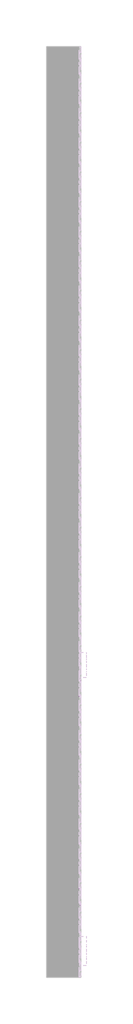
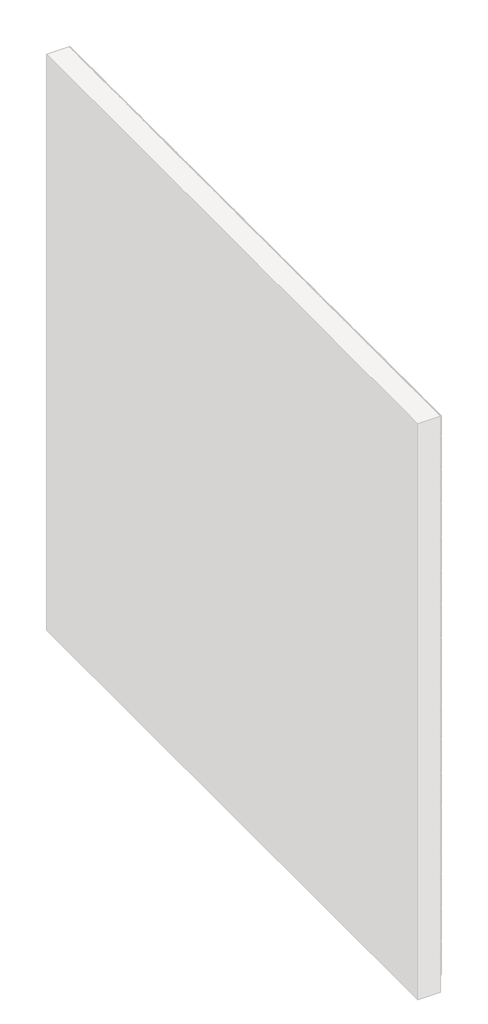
# One storey, part 32 of 121: 145 proxies.
"""IFC4 building model written with IfcOpenShell, lengths in millimetres."""

from ifc_helpers import new_model, si_unit, origin, place, context, project, spatial, transform, mapped, element, save
from components import generic_models_b2b2c5c1, generic_models_9bf73f6f, generic_models_5d175859

model = new_model("IFC4")

# Units and contexts
model_context = context("Model", 3, world=origin())
ifc_project = project(units=[si_unit("LENGTHUNIT", "METRE", prefix="MILLI")], contexts=[model_context])

# Site, building, storey
site = spatial("IfcSite", under=ifc_project)
building = spatial("IfcBuilding", under=site)
storey = spatial("IfcBuildingStorey", under=building, Name="PORTOBELLO - SHOWROOM", Elevation=0.0)

# Proxies
placement = place(None, origin())
generic_models_shape = generic_models_b2b2c5c1(model_context)
element("IfcBuildingElementProxy", 1, Name="PBSHOP - CUBICA AZUL KLEIN 4,8X8,3 : CUBICA AZUL KLEIN - POSIÇÃO 01", ObjectType="PBSHOP - CUBICA AZUL KLEIN 4,8X8,3 : CUBICA AZUL KLEIN - POSIÇÃO 01", at=placement, inside=storey, context=model_context, shape_type="MappedRepresentation", body=[
    mapped(generic_models_shape, transform((150369.5341846, 223.6459187, 2170.6574029), x_axis=(0.0, 1.0, 0.0), y_axis=(0.0, 0.0, 1.0), z_axis=(1.0, 0.0, 0.0))),
])
element("IfcBuildingElementProxy", 2, Name="PBSHOP - CUBICA AZUL KLEIN 4,8X8,3 : CUBICA AZUL KLEIN - POSIÇÃO 01", ObjectType="PBSHOP - CUBICA AZUL KLEIN 4,8X8,3 : CUBICA AZUL KLEIN - POSIÇÃO 01", at=placement, inside=storey, context=model_context, shape_type="MappedRepresentation", body=[
    mapped(generic_models_shape, transform((150369.5341846, 314.4851879, 2170.6574029), x_axis=(0.0, 1.0, 0.0), y_axis=(0.0, 0.0, 1.0), z_axis=(1.0, 0.0, 0.0))),
])
element("IfcBuildingElementProxy", 3, Name="PBSHOP - CUBICA AZUL KLEIN 4,8X8,3 : CUBICA AZUL KLEIN - POSIÇÃO 01", ObjectType="PBSHOP - CUBICA AZUL KLEIN 4,8X8,3 : CUBICA AZUL KLEIN - POSIÇÃO 01", at=placement, inside=storey, context=model_context, shape_type="MappedRepresentation", body=[
    mapped(generic_models_shape, transform((150369.5341846, 405.3244572, 2170.6574029), x_axis=(0.0, 1.0, 0.0), y_axis=(0.0, 0.0, 1.0), z_axis=(1.0, 0.0, 0.0))),
])
element("IfcBuildingElementProxy", 4, Name="PBSHOP - CUBICA AZUL KLEIN 4,8X8,3 : CUBICA AZUL KLEIN - POSIÇÃO 01", ObjectType="PBSHOP - CUBICA AZUL KLEIN 4,8X8,3 : CUBICA AZUL KLEIN - POSIÇÃO 01", at=placement, inside=storey, context=model_context, shape_type="MappedRepresentation", body=[
    mapped(generic_models_shape, transform((150369.5341846, 496.1637264, 2170.6574029), x_axis=(0.0, 1.0, 0.0), y_axis=(0.0, 0.0, 1.0), z_axis=(1.0, 0.0, 0.0))),
])
element("IfcBuildingElementProxy", 5, Name="PBSHOP - CUBICA AZUL KLEIN 4,8X8,3 : CUBICA AZUL KLEIN - POSIÇÃO 01", ObjectType="PBSHOP - CUBICA AZUL KLEIN 4,8X8,3 : CUBICA AZUL KLEIN - POSIÇÃO 01", at=placement, inside=storey, context=model_context, shape_type="MappedRepresentation", body=[
    mapped(generic_models_shape, transform((150369.5341846, 587.0029957, 2170.6574029), x_axis=(0.0, 1.0, 0.0), y_axis=(0.0, 0.0, 1.0), z_axis=(1.0, 0.0, 0.0))),
])
element("IfcBuildingElementProxy", 6, Name="PBSHOP - CUBICA AZUL KLEIN 4,8X8,3 : CUBICA AZUL KLEIN - POSIÇÃO 01", ObjectType="PBSHOP - CUBICA AZUL KLEIN 4,8X8,3 : CUBICA AZUL KLEIN - POSIÇÃO 01", at=placement, inside=storey, context=model_context, shape_type="MappedRepresentation", body=[
    mapped(generic_models_shape, transform((150369.5341846, 677.8422649, 2170.6574029), x_axis=(0.0, 1.0, 0.0), y_axis=(0.0, 0.0, 1.0), z_axis=(1.0, 0.0, 0.0))),
])
element("IfcBuildingElementProxy", 7, Name="PBSHOP - CUBICA AZUL KLEIN 4,8X8,3 : CUBICA AZUL KLEIN - POSIÇÃO 01", ObjectType="PBSHOP - CUBICA AZUL KLEIN 4,8X8,3 : CUBICA AZUL KLEIN - POSIÇÃO 01", at=placement, inside=storey, context=model_context, shape_type="MappedRepresentation", body=[
    mapped(generic_models_shape, transform((150369.5341846, 768.6815341, 2170.6574029), x_axis=(0.0, 1.0, 0.0), y_axis=(0.0, 0.0, 1.0), z_axis=(1.0, 0.0, 0.0))),
])
element("IfcBuildingElementProxy", 8, Name="PBSHOP - CUBICA AZUL KLEIN 4,8X8,3 : CUBICA AZUL KLEIN - POSIÇÃO 01", ObjectType="PBSHOP - CUBICA AZUL KLEIN 4,8X8,3 : CUBICA AZUL KLEIN - POSIÇÃO 01", at=placement, inside=storey, context=model_context, shape_type="MappedRepresentation", body=[
    mapped(generic_models_shape, transform((150369.5341846, 859.5208034, 2170.6574029), x_axis=(0.0, 1.0, 0.0), y_axis=(0.0, 0.0, 1.0), z_axis=(1.0, 0.0, 0.0))),
])
element("IfcBuildingElementProxy", 9, Name="PBSHOP - CUBICA AZUL KLEIN 4,8X8,3 : CUBICA AZUL KLEIN - POSIÇÃO 01", ObjectType="PBSHOP - CUBICA AZUL KLEIN 4,8X8,3 : CUBICA AZUL KLEIN - POSIÇÃO 01", at=placement, inside=storey, context=model_context, shape_type="MappedRepresentation", body=[
    mapped(generic_models_shape, transform((150369.5341846, 950.3600726, 2170.6574029), x_axis=(0.0, 1.0, 0.0), y_axis=(0.0, 0.0, 1.0), z_axis=(1.0, 0.0, 0.0))),
])
element("IfcBuildingElementProxy", 10, Name="PBSHOP - CUBICA AZUL KLEIN 4,8X8,3 : CUBICA AZUL KLEIN - POSIÇÃO 01", ObjectType="PBSHOP - CUBICA AZUL KLEIN 4,8X8,3 : CUBICA AZUL KLEIN - POSIÇÃO 01", at=placement, inside=storey, context=model_context, shape_type="MappedRepresentation", body=[
    mapped(generic_models_shape, transform((150369.5341846, 87.3870148, 2249.5920413), x_axis=(0.0, 1.0, 0.0), y_axis=(0.0, 0.0, 1.0), z_axis=(1.0, 0.0, 0.0))),
])
element("IfcBuildingElementProxy", 11, Name="PBSHOP - CUBICA AZUL KLEIN 4,8X8,3 : CUBICA AZUL KLEIN - POSIÇÃO 01", ObjectType="PBSHOP - CUBICA AZUL KLEIN 4,8X8,3 : CUBICA AZUL KLEIN - POSIÇÃO 01", at=placement, inside=storey, context=model_context, shape_type="MappedRepresentation", body=[
    mapped(generic_models_shape, transform((150369.5341846, 178.2262841, 2249.5920413), x_axis=(0.0, 1.0, 0.0), y_axis=(0.0, 0.0, 1.0), z_axis=(1.0, 0.0, 0.0))),
])
element("IfcBuildingElementProxy", 12, Name="PBSHOP - CUBICA AZUL KLEIN 4,8X8,3 : CUBICA AZUL KLEIN - POSIÇÃO 01", ObjectType="PBSHOP - CUBICA AZUL KLEIN 4,8X8,3 : CUBICA AZUL KLEIN - POSIÇÃO 01", at=placement, inside=storey, context=model_context, shape_type="MappedRepresentation", body=[
    mapped(generic_models_shape, transform((150369.5341846, 269.0655533, 2249.5920413), x_axis=(0.0, 1.0, 0.0), y_axis=(0.0, 0.0, 1.0), z_axis=(1.0, 0.0, 0.0))),
])
element("IfcBuildingElementProxy", 13, Name="PBSHOP - CUBICA AZUL KLEIN 4,8X8,3 : CUBICA AZUL KLEIN - POSIÇÃO 01", ObjectType="PBSHOP - CUBICA AZUL KLEIN 4,8X8,3 : CUBICA AZUL KLEIN - POSIÇÃO 01", at=placement, inside=storey, context=model_context, shape_type="MappedRepresentation", body=[
    mapped(generic_models_shape, transform((150369.5341846, 359.9048225, 2249.5920413), x_axis=(0.0, 1.0, 0.0), y_axis=(0.0, 0.0, 1.0), z_axis=(1.0, 0.0, 0.0))),
])
element("IfcBuildingElementProxy", 14, Name="PBSHOP - CUBICA AZUL KLEIN 4,8X8,3 : CUBICA AZUL KLEIN - POSIÇÃO 01", ObjectType="PBSHOP - CUBICA AZUL KLEIN 4,8X8,3 : CUBICA AZUL KLEIN - POSIÇÃO 01", at=placement, inside=storey, context=model_context, shape_type="MappedRepresentation", body=[
    mapped(generic_models_shape, transform((150369.5341846, 450.7440918, 2249.5920413), x_axis=(0.0, 1.0, 0.0), y_axis=(0.0, 0.0, 1.0), z_axis=(1.0, 0.0, 0.0))),
])
element("IfcBuildingElementProxy", 15, Name="PBSHOP - CUBICA AZUL KLEIN 4,8X8,3 : CUBICA AZUL KLEIN - POSIÇÃO 01", ObjectType="PBSHOP - CUBICA AZUL KLEIN 4,8X8,3 : CUBICA AZUL KLEIN - POSIÇÃO 01", at=placement, inside=storey, context=model_context, shape_type="MappedRepresentation", body=[
    mapped(generic_models_shape, transform((150369.5341846, 541.583361, 2249.5920413), x_axis=(0.0, 1.0, 0.0), y_axis=(0.0, 0.0, 1.0), z_axis=(1.0, 0.0, 0.0))),
])
element("IfcBuildingElementProxy", 16, Name="PBSHOP - CUBICA AZUL KLEIN 4,8X8,3 : CUBICA AZUL KLEIN - POSIÇÃO 01", ObjectType="PBSHOP - CUBICA AZUL KLEIN 4,8X8,3 : CUBICA AZUL KLEIN - POSIÇÃO 01", at=placement, inside=storey, context=model_context, shape_type="MappedRepresentation", body=[
    mapped(generic_models_shape, transform((150369.5341846, 632.4226303, 2249.5920413), x_axis=(0.0, 1.0, 0.0), y_axis=(0.0, 0.0, 1.0), z_axis=(1.0, 0.0, 0.0))),
])
element("IfcBuildingElementProxy", 17, Name="PBSHOP - CUBICA AZUL KLEIN 4,8X8,3 : CUBICA AZUL KLEIN - POSIÇÃO 01", ObjectType="PBSHOP - CUBICA AZUL KLEIN 4,8X8,3 : CUBICA AZUL KLEIN - POSIÇÃO 01", at=placement, inside=storey, context=model_context, shape_type="MappedRepresentation", body=[
    mapped(generic_models_shape, transform((150369.5341846, 723.2618995, 2249.5920413), x_axis=(0.0, 1.0, 0.0), y_axis=(0.0, 0.0, 1.0), z_axis=(1.0, 0.0, 0.0))),
])
element("IfcBuildingElementProxy", 18, Name="PBSHOP - CUBICA AZUL KLEIN 4,8X8,3 : CUBICA AZUL KLEIN - POSIÇÃO 01", ObjectType="PBSHOP - CUBICA AZUL KLEIN 4,8X8,3 : CUBICA AZUL KLEIN - POSIÇÃO 01", at=placement, inside=storey, context=model_context, shape_type="MappedRepresentation", body=[
    mapped(generic_models_shape, transform((150369.5341846, 814.1011688, 2249.5920413), x_axis=(0.0, 1.0, 0.0), y_axis=(0.0, 0.0, 1.0), z_axis=(1.0, 0.0, 0.0))),
])
element("IfcBuildingElementProxy", 19, Name="PBSHOP - CUBICA AZUL KLEIN 4,8X8,3 : CUBICA AZUL KLEIN - POSIÇÃO 01", ObjectType="PBSHOP - CUBICA AZUL KLEIN 4,8X8,3 : CUBICA AZUL KLEIN - POSIÇÃO 01", at=placement, inside=storey, context=model_context, shape_type="MappedRepresentation", body=[
    mapped(generic_models_shape, transform((150369.5341846, 904.940438, 2249.5920413), x_axis=(0.0, 1.0, 0.0), y_axis=(0.0, 0.0, 1.0), z_axis=(1.0, 0.0, 0.0))),
])
element("IfcBuildingElementProxy", 20, Name="PBSHOP - CUBICA AZUL KLEIN 4,8X8,3 : CUBICA AZUL KLEIN - POSIÇÃO 01", ObjectType="PBSHOP - CUBICA AZUL KLEIN 4,8X8,3 : CUBICA AZUL KLEIN - POSIÇÃO 01", at=placement, inside=storey, context=model_context, shape_type="MappedRepresentation", body=[
    mapped(generic_models_shape, transform((150369.5341846, 995.7797073, 2249.5920413), x_axis=(0.0, 1.0, 0.0), y_axis=(0.0, 0.0, 1.0), z_axis=(1.0, 0.0, 0.0))),
])
element("IfcBuildingElementProxy", 21, Name="PBSHOP - CUBICA AZUL KLEIN 4,8X8,3 : CUBICA AZUL KLEIN - POSIÇÃO 01", ObjectType="PBSHOP - CUBICA AZUL KLEIN 4,8X8,3 : CUBICA AZUL KLEIN - POSIÇÃO 01", at=placement, inside=storey, context=model_context, shape_type="MappedRepresentation", body=[
    mapped(generic_models_shape, transform((150369.5341846, 41.9673802, 2328.5266797), x_axis=(0.0, 1.0, 0.0), y_axis=(0.0, 0.0, 1.0), z_axis=(1.0, 0.0, 0.0))),
])
element("IfcBuildingElementProxy", 22, Name="PBSHOP - CUBICA AZUL KLEIN 4,8X8,3 : CUBICA AZUL KLEIN - POSIÇÃO 01", ObjectType="PBSHOP - CUBICA AZUL KLEIN 4,8X8,3 : CUBICA AZUL KLEIN - POSIÇÃO 01", at=placement, inside=storey, context=model_context, shape_type="MappedRepresentation", body=[
    mapped(generic_models_shape, transform((150369.5341846, 132.8066494, 2328.5266797), x_axis=(0.0, 1.0, 0.0), y_axis=(0.0, 0.0, 1.0), z_axis=(1.0, 0.0, 0.0))),
])
element("IfcBuildingElementProxy", 23, Name="PBSHOP - CUBICA AZUL KLEIN 4,8X8,3 : CUBICA AZUL KLEIN - POSIÇÃO 01", ObjectType="PBSHOP - CUBICA AZUL KLEIN 4,8X8,3 : CUBICA AZUL KLEIN - POSIÇÃO 01", at=placement, inside=storey, context=model_context, shape_type="MappedRepresentation", body=[
    mapped(generic_models_shape, transform((150369.5341846, 223.6459187, 2328.5266797), x_axis=(0.0, 1.0, 0.0), y_axis=(0.0, 0.0, 1.0), z_axis=(1.0, 0.0, 0.0))),
])
element("IfcBuildingElementProxy", 24, Name="PBSHOP - CUBICA AZUL KLEIN 4,8X8,3 : CUBICA AZUL KLEIN - POSIÇÃO 01", ObjectType="PBSHOP - CUBICA AZUL KLEIN 4,8X8,3 : CUBICA AZUL KLEIN - POSIÇÃO 01", at=placement, inside=storey, context=model_context, shape_type="MappedRepresentation", body=[
    mapped(generic_models_shape, transform((150369.5341846, 314.4851879, 2328.5266797), x_axis=(0.0, 1.0, 0.0), y_axis=(0.0, 0.0, 1.0), z_axis=(1.0, 0.0, 0.0))),
])
element("IfcBuildingElementProxy", 25, Name="PBSHOP - CUBICA AZUL KLEIN 4,8X8,3 : CUBICA AZUL KLEIN - POSIÇÃO 01", ObjectType="PBSHOP - CUBICA AZUL KLEIN 4,8X8,3 : CUBICA AZUL KLEIN - POSIÇÃO 01", at=placement, inside=storey, context=model_context, shape_type="MappedRepresentation", body=[
    mapped(generic_models_shape, transform((150369.5341846, 405.3244572, 2328.5266797), x_axis=(0.0, 1.0, 0.0), y_axis=(0.0, 0.0, 1.0), z_axis=(1.0, 0.0, 0.0))),
])
element("IfcBuildingElementProxy", 26, Name="PBSHOP - CUBICA AZUL KLEIN 4,8X8,3 : CUBICA AZUL KLEIN - POSIÇÃO 01", ObjectType="PBSHOP - CUBICA AZUL KLEIN 4,8X8,3 : CUBICA AZUL KLEIN - POSIÇÃO 01", at=placement, inside=storey, context=model_context, shape_type="MappedRepresentation", body=[
    mapped(generic_models_shape, transform((150369.5341846, 496.1637264, 2328.5266797), x_axis=(0.0, 1.0, 0.0), y_axis=(0.0, 0.0, 1.0), z_axis=(1.0, 0.0, 0.0))),
])
element("IfcBuildingElementProxy", 27, Name="PBSHOP - CUBICA AZUL KLEIN 4,8X8,3 : CUBICA AZUL KLEIN - POSIÇÃO 01", ObjectType="PBSHOP - CUBICA AZUL KLEIN 4,8X8,3 : CUBICA AZUL KLEIN - POSIÇÃO 01", at=placement, inside=storey, context=model_context, shape_type="MappedRepresentation", body=[
    mapped(generic_models_shape, transform((150369.5341846, 587.0029957, 2328.5266797), x_axis=(0.0, 1.0, 0.0), y_axis=(0.0, 0.0, 1.0), z_axis=(1.0, 0.0, 0.0))),
])
element("IfcBuildingElementProxy", 28, Name="PBSHOP - CUBICA AZUL KLEIN 4,8X8,3 : CUBICA AZUL KLEIN - POSIÇÃO 01", ObjectType="PBSHOP - CUBICA AZUL KLEIN 4,8X8,3 : CUBICA AZUL KLEIN - POSIÇÃO 01", at=placement, inside=storey, context=model_context, shape_type="MappedRepresentation", body=[
    mapped(generic_models_shape, transform((150369.5341846, 677.8422649, 2328.5266797), x_axis=(0.0, 1.0, 0.0), y_axis=(0.0, 0.0, 1.0), z_axis=(1.0, 0.0, 0.0))),
])
element("IfcBuildingElementProxy", 29, Name="PBSHOP - CUBICA AZUL KLEIN 4,8X8,3 : CUBICA AZUL KLEIN - POSIÇÃO 01", ObjectType="PBSHOP - CUBICA AZUL KLEIN 4,8X8,3 : CUBICA AZUL KLEIN - POSIÇÃO 01", at=placement, inside=storey, context=model_context, shape_type="MappedRepresentation", body=[
    mapped(generic_models_shape, transform((150369.5341846, 768.6815341, 2328.5266797), x_axis=(0.0, 1.0, 0.0), y_axis=(0.0, 0.0, 1.0), z_axis=(1.0, 0.0, 0.0))),
])
element("IfcBuildingElementProxy", 30, Name="PBSHOP - CUBICA AZUL KLEIN 4,8X8,3 : CUBICA AZUL KLEIN - POSIÇÃO 01", ObjectType="PBSHOP - CUBICA AZUL KLEIN 4,8X8,3 : CUBICA AZUL KLEIN - POSIÇÃO 01", at=placement, inside=storey, context=model_context, shape_type="MappedRepresentation", body=[
    mapped(generic_models_shape, transform((150369.5341846, 859.5208034, 2328.5266797), x_axis=(0.0, 1.0, 0.0), y_axis=(0.0, 0.0, 1.0), z_axis=(1.0, 0.0, 0.0))),
])
element("IfcBuildingElementProxy", 31, Name="PBSHOP - CUBICA AZUL KLEIN 4,8X8,3 : CUBICA AZUL KLEIN - POSIÇÃO 01", ObjectType="PBSHOP - CUBICA AZUL KLEIN 4,8X8,3 : CUBICA AZUL KLEIN - POSIÇÃO 01", at=placement, inside=storey, context=model_context, shape_type="MappedRepresentation", body=[
    mapped(generic_models_shape, transform((150369.5341846, 950.3600726, 2328.5266797), x_axis=(0.0, 1.0, 0.0), y_axis=(0.0, 0.0, 1.0), z_axis=(1.0, 0.0, 0.0))),
])
element("IfcBuildingElementProxy", 32, Name="PBSHOP - CUBICA AZUL KLEIN 4,8X8,3 : CUBICA AZUL KLEIN - POSIÇÃO 01", ObjectType="PBSHOP - CUBICA AZUL KLEIN 4,8X8,3 : CUBICA AZUL KLEIN - POSIÇÃO 01", at=placement, inside=storey, context=model_context, shape_type="MappedRepresentation", body=[
    mapped(generic_models_shape, transform((150369.5341846, 87.3870148, 2407.461318), x_axis=(0.0, 1.0, 0.0), y_axis=(0.0, 0.0, 1.0), z_axis=(1.0, 0.0, 0.0))),
])
element("IfcBuildingElementProxy", 33, Name="PBSHOP - CUBICA AZUL KLEIN 4,8X8,3 : CUBICA AZUL KLEIN - POSIÇÃO 01", ObjectType="PBSHOP - CUBICA AZUL KLEIN 4,8X8,3 : CUBICA AZUL KLEIN - POSIÇÃO 01", at=placement, inside=storey, context=model_context, shape_type="MappedRepresentation", body=[
    mapped(generic_models_shape, transform((150369.5341846, 178.2262841, 2407.461318), x_axis=(0.0, 1.0, 0.0), y_axis=(0.0, 0.0, 1.0), z_axis=(1.0, 0.0, 0.0))),
])
element("IfcBuildingElementProxy", 34, Name="PBSHOP - CUBICA AZUL KLEIN 4,8X8,3 : CUBICA AZUL KLEIN - POSIÇÃO 01", ObjectType="PBSHOP - CUBICA AZUL KLEIN 4,8X8,3 : CUBICA AZUL KLEIN - POSIÇÃO 01", at=placement, inside=storey, context=model_context, shape_type="MappedRepresentation", body=[
    mapped(generic_models_shape, transform((150369.5341846, 269.0655533, 2407.461318), x_axis=(0.0, 1.0, 0.0), y_axis=(0.0, 0.0, 1.0), z_axis=(1.0, 0.0, 0.0))),
])
element("IfcBuildingElementProxy", 35, Name="PBSHOP - CUBICA AZUL KLEIN 4,8X8,3 : CUBICA AZUL KLEIN - POSIÇÃO 01", ObjectType="PBSHOP - CUBICA AZUL KLEIN 4,8X8,3 : CUBICA AZUL KLEIN - POSIÇÃO 01", at=placement, inside=storey, context=model_context, shape_type="MappedRepresentation", body=[
    mapped(generic_models_shape, transform((150369.5341846, 359.9048225, 2407.461318), x_axis=(0.0, 1.0, 0.0), y_axis=(0.0, 0.0, 1.0), z_axis=(1.0, 0.0, 0.0))),
])
element("IfcBuildingElementProxy", 36, Name="PBSHOP - CUBICA AZUL KLEIN 4,8X8,3 : CUBICA AZUL KLEIN - POSIÇÃO 01", ObjectType="PBSHOP - CUBICA AZUL KLEIN 4,8X8,3 : CUBICA AZUL KLEIN - POSIÇÃO 01", at=placement, inside=storey, context=model_context, shape_type="MappedRepresentation", body=[
    mapped(generic_models_shape, transform((150369.5341846, 450.7440918, 2407.461318), x_axis=(0.0, 1.0, 0.0), y_axis=(0.0, 0.0, 1.0), z_axis=(1.0, 0.0, 0.0))),
])
element("IfcBuildingElementProxy", 37, Name="PBSHOP - CUBICA AZUL KLEIN 4,8X8,3 : CUBICA AZUL KLEIN - POSIÇÃO 01", ObjectType="PBSHOP - CUBICA AZUL KLEIN 4,8X8,3 : CUBICA AZUL KLEIN - POSIÇÃO 01", at=placement, inside=storey, context=model_context, shape_type="MappedRepresentation", body=[
    mapped(generic_models_shape, transform((150369.5341846, 541.583361, 2407.461318), x_axis=(0.0, 1.0, 0.0), y_axis=(0.0, 0.0, 1.0), z_axis=(1.0, 0.0, 0.0))),
])
element("IfcBuildingElementProxy", 38, Name="PBSHOP - CUBICA AZUL KLEIN 4,8X8,3 : CUBICA AZUL KLEIN - POSIÇÃO 01", ObjectType="PBSHOP - CUBICA AZUL KLEIN 4,8X8,3 : CUBICA AZUL KLEIN - POSIÇÃO 01", at=placement, inside=storey, context=model_context, shape_type="MappedRepresentation", body=[
    mapped(generic_models_shape, transform((150369.5341846, 632.4226303, 2407.461318), x_axis=(0.0, 1.0, 0.0), y_axis=(0.0, 0.0, 1.0), z_axis=(1.0, 0.0, 0.0))),
])
element("IfcBuildingElementProxy", 39, Name="PBSHOP - CUBICA AZUL KLEIN 4,8X8,3 : CUBICA AZUL KLEIN - POSIÇÃO 01", ObjectType="PBSHOP - CUBICA AZUL KLEIN 4,8X8,3 : CUBICA AZUL KLEIN - POSIÇÃO 01", at=placement, inside=storey, context=model_context, shape_type="MappedRepresentation", body=[
    mapped(generic_models_shape, transform((150369.5341846, 723.2618995, 2407.461318), x_axis=(0.0, 1.0, 0.0), y_axis=(0.0, 0.0, 1.0), z_axis=(1.0, 0.0, 0.0))),
])
element("IfcBuildingElementProxy", 40, Name="PBSHOP - CUBICA AZUL KLEIN 4,8X8,3 : CUBICA AZUL KLEIN - POSIÇÃO 01", ObjectType="PBSHOP - CUBICA AZUL KLEIN 4,8X8,3 : CUBICA AZUL KLEIN - POSIÇÃO 01", at=placement, inside=storey, context=model_context, shape_type="MappedRepresentation", body=[
    mapped(generic_models_shape, transform((150369.5341846, 814.1011688, 2407.461318), x_axis=(0.0, 1.0, 0.0), y_axis=(0.0, 0.0, 1.0), z_axis=(1.0, 0.0, 0.0))),
])
element("IfcBuildingElementProxy", 41, Name="PBSHOP - CUBICA AZUL KLEIN 4,8X8,3 : CUBICA AZUL KLEIN - POSIÇÃO 01", ObjectType="PBSHOP - CUBICA AZUL KLEIN 4,8X8,3 : CUBICA AZUL KLEIN - POSIÇÃO 01", at=placement, inside=storey, context=model_context, shape_type="MappedRepresentation", body=[
    mapped(generic_models_shape, transform((150369.5341846, 904.940438, 2407.461318), x_axis=(0.0, 1.0, 0.0), y_axis=(0.0, 0.0, 1.0), z_axis=(1.0, 0.0, 0.0))),
])
element("IfcBuildingElementProxy", 42, Name="PBSHOP - CUBICA AZUL KLEIN 4,8X8,3 : CUBICA AZUL KLEIN - POSIÇÃO 01", ObjectType="PBSHOP - CUBICA AZUL KLEIN 4,8X8,3 : CUBICA AZUL KLEIN - POSIÇÃO 01", at=placement, inside=storey, context=model_context, shape_type="MappedRepresentation", body=[
    mapped(generic_models_shape, transform((150369.5341846, 995.7797073, 2407.461318), x_axis=(0.0, 1.0, 0.0), y_axis=(0.0, 0.0, 1.0), z_axis=(1.0, 0.0, 0.0))),
])
element("IfcBuildingElementProxy", 43, Name="PBSHOP - CUBICA AZUL KLEIN 4,8X8,3 : CUBICA AZUL KLEIN - POSIÇÃO 01", ObjectType="PBSHOP - CUBICA AZUL KLEIN 4,8X8,3 : CUBICA AZUL KLEIN - POSIÇÃO 01", at=placement, inside=storey, context=model_context, shape_type="MappedRepresentation", body=[
    mapped(generic_models_shape, transform((150369.5341846, 41.9673802, 2486.3959564), x_axis=(0.0, 1.0, 0.0), y_axis=(0.0, 0.0, 1.0), z_axis=(1.0, 0.0, 0.0))),
])
element("IfcBuildingElementProxy", 44, Name="PBSHOP - CUBICA AZUL KLEIN 4,8X8,3 : CUBICA AZUL KLEIN - POSIÇÃO 01", ObjectType="PBSHOP - CUBICA AZUL KLEIN 4,8X8,3 : CUBICA AZUL KLEIN - POSIÇÃO 01", at=placement, inside=storey, context=model_context, shape_type="MappedRepresentation", body=[
    mapped(generic_models_shape, transform((150369.5341846, 132.8066494, 2486.3959564), x_axis=(0.0, 1.0, 0.0), y_axis=(0.0, 0.0, 1.0), z_axis=(1.0, 0.0, 0.0))),
])
element("IfcBuildingElementProxy", 45, Name="PBSHOP - CUBICA AZUL KLEIN 4,8X8,3 : CUBICA AZUL KLEIN - POSIÇÃO 01", ObjectType="PBSHOP - CUBICA AZUL KLEIN 4,8X8,3 : CUBICA AZUL KLEIN - POSIÇÃO 01", at=placement, inside=storey, context=model_context, shape_type="MappedRepresentation", body=[
    mapped(generic_models_shape, transform((150369.5341846, 223.6459187, 2486.3959564), x_axis=(0.0, 1.0, 0.0), y_axis=(0.0, 0.0, 1.0), z_axis=(1.0, 0.0, 0.0))),
])
element("IfcBuildingElementProxy", 46, Name="PBSHOP - CUBICA AZUL KLEIN 4,8X8,3 : CUBICA AZUL KLEIN - POSIÇÃO 01", ObjectType="PBSHOP - CUBICA AZUL KLEIN 4,8X8,3 : CUBICA AZUL KLEIN - POSIÇÃO 01", at=placement, inside=storey, context=model_context, shape_type="MappedRepresentation", body=[
    mapped(generic_models_shape, transform((150369.5341846, 314.4851879, 2486.3959564), x_axis=(0.0, 1.0, 0.0), y_axis=(0.0, 0.0, 1.0), z_axis=(1.0, 0.0, 0.0))),
])
element("IfcBuildingElementProxy", 47, Name="PBSHOP - CUBICA AZUL KLEIN 4,8X8,3 : CUBICA AZUL KLEIN - POSIÇÃO 01", ObjectType="PBSHOP - CUBICA AZUL KLEIN 4,8X8,3 : CUBICA AZUL KLEIN - POSIÇÃO 01", at=placement, inside=storey, context=model_context, shape_type="MappedRepresentation", body=[
    mapped(generic_models_shape, transform((150369.5341846, 405.3244572, 2486.3959564), x_axis=(0.0, 1.0, 0.0), y_axis=(0.0, 0.0, 1.0), z_axis=(1.0, 0.0, 0.0))),
])
element("IfcBuildingElementProxy", 48, Name="PBSHOP - CUBICA AZUL KLEIN 4,8X8,3 : CUBICA AZUL KLEIN - POSIÇÃO 01", ObjectType="PBSHOP - CUBICA AZUL KLEIN 4,8X8,3 : CUBICA AZUL KLEIN - POSIÇÃO 01", at=placement, inside=storey, context=model_context, shape_type="MappedRepresentation", body=[
    mapped(generic_models_shape, transform((150369.5341846, 496.1637264, 2486.3959564), x_axis=(0.0, 1.0, 0.0), y_axis=(0.0, 0.0, 1.0), z_axis=(1.0, 0.0, 0.0))),
])
element("IfcBuildingElementProxy", 49, Name="PBSHOP - CUBICA AZUL KLEIN 4,8X8,3 : CUBICA AZUL KLEIN - POSIÇÃO 01", ObjectType="PBSHOP - CUBICA AZUL KLEIN 4,8X8,3 : CUBICA AZUL KLEIN - POSIÇÃO 01", at=placement, inside=storey, context=model_context, shape_type="MappedRepresentation", body=[
    mapped(generic_models_shape, transform((150369.5341846, 587.0029957, 2486.3959564), x_axis=(0.0, 1.0, 0.0), y_axis=(0.0, 0.0, 1.0), z_axis=(1.0, 0.0, 0.0))),
])
element("IfcBuildingElementProxy", 50, Name="PBSHOP - CUBICA AZUL KLEIN 4,8X8,3 : CUBICA AZUL KLEIN - POSIÇÃO 01", ObjectType="PBSHOP - CUBICA AZUL KLEIN 4,8X8,3 : CUBICA AZUL KLEIN - POSIÇÃO 01", at=placement, inside=storey, context=model_context, shape_type="MappedRepresentation", body=[
    mapped(generic_models_shape, transform((150369.5341846, 677.8422649, 2486.3959564), x_axis=(0.0, 1.0, 0.0), y_axis=(0.0, 0.0, 1.0), z_axis=(1.0, 0.0, 0.0))),
])
element("IfcBuildingElementProxy", 51, Name="PBSHOP - CUBICA AZUL KLEIN 4,8X8,3 : CUBICA AZUL KLEIN - POSIÇÃO 01", ObjectType="PBSHOP - CUBICA AZUL KLEIN 4,8X8,3 : CUBICA AZUL KLEIN - POSIÇÃO 01", at=placement, inside=storey, context=model_context, shape_type="MappedRepresentation", body=[
    mapped(generic_models_shape, transform((150369.5341846, 768.6815341, 2486.3959564), x_axis=(0.0, 1.0, 0.0), y_axis=(0.0, 0.0, 1.0), z_axis=(1.0, 0.0, 0.0))),
])
generic_models_2_shape = generic_models_9bf73f6f(model_context)
element("IfcBuildingElementProxy", 52, Name="PBSHOP - CUBICA AZUL KLEIN 4,8X8,3 : CUBICA AZUL KLEIN - POSIÇÃO 03", ObjectType="PBSHOP - CUBICA AZUL KLEIN 4,8X8,3 : CUBICA AZUL KLEIN - POSIÇÃO 03", at=placement, inside=storey, context=model_context, shape_type="MappedRepresentation", body=[
    mapped(generic_models_2_shape, transform((150369.5341846, 19.259722, 2131.1488733), x_axis=(0.0, 1.0, 0.0), y_axis=(0.0, 0.0, 1.0), z_axis=(1.0, 0.0, 0.0))),
])
element("IfcBuildingElementProxy", 53, Name="PBSHOP - CUBICA AZUL KLEIN 4,8X8,3 : CUBICA AZUL KLEIN - POSIÇÃO 03", ObjectType="PBSHOP - CUBICA AZUL KLEIN 4,8X8,3 : CUBICA AZUL KLEIN - POSIÇÃO 03", at=placement, inside=storey, context=model_context, shape_type="MappedRepresentation", body=[
    mapped(generic_models_2_shape, transform((150369.5341846, 110.0989913, 2131.1488733), x_axis=(0.0, 1.0, 0.0), y_axis=(0.0, 0.0, 1.0), z_axis=(1.0, 0.0, 0.0))),
])
element("IfcBuildingElementProxy", 54, Name="PBSHOP - CUBICA AZUL KLEIN 4,8X8,3 : CUBICA AZUL KLEIN - POSIÇÃO 03", ObjectType="PBSHOP - CUBICA AZUL KLEIN 4,8X8,3 : CUBICA AZUL KLEIN - POSIÇÃO 03", at=placement, inside=storey, context=model_context, shape_type="MappedRepresentation", body=[
    mapped(generic_models_2_shape, transform((150369.5341846, 200.9382605, 2131.1488733), x_axis=(0.0, 1.0, 0.0), y_axis=(0.0, 0.0, 1.0), z_axis=(1.0, 0.0, 0.0))),
])
element("IfcBuildingElementProxy", 55, Name="PBSHOP - CUBICA AZUL KLEIN 4,8X8,3 : CUBICA AZUL KLEIN - POSIÇÃO 03", ObjectType="PBSHOP - CUBICA AZUL KLEIN 4,8X8,3 : CUBICA AZUL KLEIN - POSIÇÃO 03", at=placement, inside=storey, context=model_context, shape_type="MappedRepresentation", body=[
    mapped(generic_models_2_shape, transform((150369.5341846, 291.7775298, 2131.1488733), x_axis=(0.0, 1.0, 0.0), y_axis=(0.0, 0.0, 1.0), z_axis=(1.0, 0.0, 0.0))),
])
element("IfcBuildingElementProxy", 56, Name="PBSHOP - CUBICA AZUL KLEIN 4,8X8,3 : CUBICA AZUL KLEIN - POSIÇÃO 03", ObjectType="PBSHOP - CUBICA AZUL KLEIN 4,8X8,3 : CUBICA AZUL KLEIN - POSIÇÃO 03", at=placement, inside=storey, context=model_context, shape_type="MappedRepresentation", body=[
    mapped(generic_models_2_shape, transform((150369.5341846, 382.616799, 2131.1488733), x_axis=(0.0, 1.0, 0.0), y_axis=(0.0, 0.0, 1.0), z_axis=(1.0, 0.0, 0.0))),
])
element("IfcBuildingElementProxy", 57, Name="PBSHOP - CUBICA AZUL KLEIN 4,8X8,3 : CUBICA AZUL KLEIN - POSIÇÃO 03", ObjectType="PBSHOP - CUBICA AZUL KLEIN 4,8X8,3 : CUBICA AZUL KLEIN - POSIÇÃO 03", at=placement, inside=storey, context=model_context, shape_type="MappedRepresentation", body=[
    mapped(generic_models_2_shape, transform((150369.5341846, 473.4560683, 2131.1488733), x_axis=(0.0, 1.0, 0.0), y_axis=(0.0, 0.0, 1.0), z_axis=(1.0, 0.0, 0.0))),
])
element("IfcBuildingElementProxy", 58, Name="PBSHOP - CUBICA AZUL KLEIN 4,8X8,3 : CUBICA AZUL KLEIN - POSIÇÃO 03", ObjectType="PBSHOP - CUBICA AZUL KLEIN 4,8X8,3 : CUBICA AZUL KLEIN - POSIÇÃO 03", at=placement, inside=storey, context=model_context, shape_type="MappedRepresentation", body=[
    mapped(generic_models_2_shape, transform((150369.5341846, 564.2953375, 2131.1488733), x_axis=(0.0, 1.0, 0.0), y_axis=(0.0, 0.0, 1.0), z_axis=(1.0, 0.0, 0.0))),
])
element("IfcBuildingElementProxy", 59, Name="PBSHOP - CUBICA AZUL KLEIN 4,8X8,3 : CUBICA AZUL KLEIN - POSIÇÃO 03", ObjectType="PBSHOP - CUBICA AZUL KLEIN 4,8X8,3 : CUBICA AZUL KLEIN - POSIÇÃO 03", at=placement, inside=storey, context=model_context, shape_type="MappedRepresentation", body=[
    mapped(generic_models_2_shape, transform((150369.5341846, 655.1346068, 2131.1488733), x_axis=(0.0, 1.0, 0.0), y_axis=(0.0, 0.0, 1.0), z_axis=(1.0, 0.0, 0.0))),
])
element("IfcBuildingElementProxy", 60, Name="PBSHOP - CUBICA AZUL KLEIN 4,8X8,3 : CUBICA AZUL KLEIN - POSIÇÃO 03", ObjectType="PBSHOP - CUBICA AZUL KLEIN 4,8X8,3 : CUBICA AZUL KLEIN - POSIÇÃO 03", at=placement, inside=storey, context=model_context, shape_type="MappedRepresentation", body=[
    mapped(generic_models_2_shape, transform((150369.5341846, 745.973876, 2131.1488733), x_axis=(0.0, 1.0, 0.0), y_axis=(0.0, 0.0, 1.0), z_axis=(1.0, 0.0, 0.0))),
])
element("IfcBuildingElementProxy", 61, Name="PBSHOP - CUBICA AZUL KLEIN 4,8X8,3 : CUBICA AZUL KLEIN - POSIÇÃO 03", ObjectType="PBSHOP - CUBICA AZUL KLEIN 4,8X8,3 : CUBICA AZUL KLEIN - POSIÇÃO 03", at=placement, inside=storey, context=model_context, shape_type="MappedRepresentation", body=[
    mapped(generic_models_2_shape, transform((150369.5341846, 836.8131452, 2131.1488733), x_axis=(0.0, 1.0, 0.0), y_axis=(0.0, 0.0, 1.0), z_axis=(1.0, 0.0, 0.0))),
])
element("IfcBuildingElementProxy", 62, Name="PBSHOP - CUBICA AZUL KLEIN 4,8X8,3 : CUBICA AZUL KLEIN - POSIÇÃO 03", ObjectType="PBSHOP - CUBICA AZUL KLEIN 4,8X8,3 : CUBICA AZUL KLEIN - POSIÇÃO 03", at=placement, inside=storey, context=model_context, shape_type="MappedRepresentation", body=[
    mapped(generic_models_2_shape, transform((150369.5341846, 927.6524145, 2131.1488733), x_axis=(0.0, 1.0, 0.0), y_axis=(0.0, 0.0, 1.0), z_axis=(1.0, 0.0, 0.0))),
])
element("IfcBuildingElementProxy", 63, Name="PBSHOP - CUBICA AZUL KLEIN 4,8X8,3 : CUBICA AZUL KLEIN - POSIÇÃO 03", ObjectType="PBSHOP - CUBICA AZUL KLEIN 4,8X8,3 : CUBICA AZUL KLEIN - POSIÇÃO 03", at=placement, inside=storey, context=model_context, shape_type="MappedRepresentation", body=[
    mapped(generic_models_2_shape, transform((150369.5341846, 64.6793567, 2210.0835117), x_axis=(0.0, 1.0, 0.0), y_axis=(0.0, 0.0, 1.0), z_axis=(1.0, 0.0, 0.0))),
])
element("IfcBuildingElementProxy", 64, Name="PBSHOP - CUBICA AZUL KLEIN 4,8X8,3 : CUBICA AZUL KLEIN - POSIÇÃO 03", ObjectType="PBSHOP - CUBICA AZUL KLEIN 4,8X8,3 : CUBICA AZUL KLEIN - POSIÇÃO 03", at=placement, inside=storey, context=model_context, shape_type="MappedRepresentation", body=[
    mapped(generic_models_2_shape, transform((150369.5341846, 155.5186259, 2210.0835117), x_axis=(0.0, 1.0, 0.0), y_axis=(0.0, 0.0, 1.0), z_axis=(1.0, 0.0, 0.0))),
])
element("IfcBuildingElementProxy", 65, Name="PBSHOP - CUBICA AZUL KLEIN 4,8X8,3 : CUBICA AZUL KLEIN - POSIÇÃO 03", ObjectType="PBSHOP - CUBICA AZUL KLEIN 4,8X8,3 : CUBICA AZUL KLEIN - POSIÇÃO 03", at=placement, inside=storey, context=model_context, shape_type="MappedRepresentation", body=[
    mapped(generic_models_2_shape, transform((150369.5341846, 246.3578952, 2210.0835117), x_axis=(0.0, 1.0, 0.0), y_axis=(0.0, 0.0, 1.0), z_axis=(1.0, 0.0, 0.0))),
])
element("IfcBuildingElementProxy", 66, Name="PBSHOP - CUBICA AZUL KLEIN 4,8X8,3 : CUBICA AZUL KLEIN - POSIÇÃO 03", ObjectType="PBSHOP - CUBICA AZUL KLEIN 4,8X8,3 : CUBICA AZUL KLEIN - POSIÇÃO 03", at=placement, inside=storey, context=model_context, shape_type="MappedRepresentation", body=[
    mapped(generic_models_2_shape, transform((150369.5341846, 337.1971644, 2210.0835117), x_axis=(0.0, 1.0, 0.0), y_axis=(0.0, 0.0, 1.0), z_axis=(1.0, 0.0, 0.0))),
])
element("IfcBuildingElementProxy", 67, Name="PBSHOP - CUBICA AZUL KLEIN 4,8X8,3 : CUBICA AZUL KLEIN - POSIÇÃO 03", ObjectType="PBSHOP - CUBICA AZUL KLEIN 4,8X8,3 : CUBICA AZUL KLEIN - POSIÇÃO 03", at=placement, inside=storey, context=model_context, shape_type="MappedRepresentation", body=[
    mapped(generic_models_2_shape, transform((150369.5341846, 428.0364336, 2210.0835117), x_axis=(0.0, 1.0, 0.0), y_axis=(0.0, 0.0, 1.0), z_axis=(1.0, 0.0, 0.0))),
])
element("IfcBuildingElementProxy", 68, Name="PBSHOP - CUBICA AZUL KLEIN 4,8X8,3 : CUBICA AZUL KLEIN - POSIÇÃO 03", ObjectType="PBSHOP - CUBICA AZUL KLEIN 4,8X8,3 : CUBICA AZUL KLEIN - POSIÇÃO 03", at=placement, inside=storey, context=model_context, shape_type="MappedRepresentation", body=[
    mapped(generic_models_2_shape, transform((150369.5341846, 518.8757029, 2210.0835117), x_axis=(0.0, 1.0, 0.0), y_axis=(0.0, 0.0, 1.0), z_axis=(1.0, 0.0, 0.0))),
])
element("IfcBuildingElementProxy", 69, Name="PBSHOP - CUBICA AZUL KLEIN 4,8X8,3 : CUBICA AZUL KLEIN - POSIÇÃO 03", ObjectType="PBSHOP - CUBICA AZUL KLEIN 4,8X8,3 : CUBICA AZUL KLEIN - POSIÇÃO 03", at=placement, inside=storey, context=model_context, shape_type="MappedRepresentation", body=[
    mapped(generic_models_2_shape, transform((150369.5341846, 609.7149721, 2210.0835117), x_axis=(0.0, 1.0, 0.0), y_axis=(0.0, 0.0, 1.0), z_axis=(1.0, 0.0, 0.0))),
])
element("IfcBuildingElementProxy", 70, Name="PBSHOP - CUBICA AZUL KLEIN 4,8X8,3 : CUBICA AZUL KLEIN - POSIÇÃO 03", ObjectType="PBSHOP - CUBICA AZUL KLEIN 4,8X8,3 : CUBICA AZUL KLEIN - POSIÇÃO 03", at=placement, inside=storey, context=model_context, shape_type="MappedRepresentation", body=[
    mapped(generic_models_2_shape, transform((150369.5341846, 700.5542414, 2210.0835117), x_axis=(0.0, 1.0, 0.0), y_axis=(0.0, 0.0, 1.0), z_axis=(1.0, 0.0, 0.0))),
])
element("IfcBuildingElementProxy", 71, Name="PBSHOP - CUBICA AZUL KLEIN 4,8X8,3 : CUBICA AZUL KLEIN - POSIÇÃO 03", ObjectType="PBSHOP - CUBICA AZUL KLEIN 4,8X8,3 : CUBICA AZUL KLEIN - POSIÇÃO 03", at=placement, inside=storey, context=model_context, shape_type="MappedRepresentation", body=[
    mapped(generic_models_2_shape, transform((150369.5341846, 791.3935106, 2210.0835117), x_axis=(0.0, 1.0, 0.0), y_axis=(0.0, 0.0, 1.0), z_axis=(1.0, 0.0, 0.0))),
])
element("IfcBuildingElementProxy", 72, Name="PBSHOP - CUBICA AZUL KLEIN 4,8X8,3 : CUBICA AZUL KLEIN - POSIÇÃO 03", ObjectType="PBSHOP - CUBICA AZUL KLEIN 4,8X8,3 : CUBICA AZUL KLEIN - POSIÇÃO 03", at=placement, inside=storey, context=model_context, shape_type="MappedRepresentation", body=[
    mapped(generic_models_2_shape, transform((150369.5341846, 882.2327799, 2210.0835117), x_axis=(0.0, 1.0, 0.0), y_axis=(0.0, 0.0, 1.0), z_axis=(1.0, 0.0, 0.0))),
])
element("IfcBuildingElementProxy", 73, Name="PBSHOP - CUBICA AZUL KLEIN 4,8X8,3 : CUBICA AZUL KLEIN - POSIÇÃO 03", ObjectType="PBSHOP - CUBICA AZUL KLEIN 4,8X8,3 : CUBICA AZUL KLEIN - POSIÇÃO 03", at=placement, inside=storey, context=model_context, shape_type="MappedRepresentation", body=[
    mapped(generic_models_2_shape, transform((150369.5341846, 973.0720491, 2210.0835117), x_axis=(0.0, 1.0, 0.0), y_axis=(0.0, 0.0, 1.0), z_axis=(1.0, 0.0, 0.0))),
])
element("IfcBuildingElementProxy", 74, Name="PBSHOP - CUBICA AZUL KLEIN 4,8X8,3 : CUBICA AZUL KLEIN - POSIÇÃO 03", ObjectType="PBSHOP - CUBICA AZUL KLEIN 4,8X8,3 : CUBICA AZUL KLEIN - POSIÇÃO 03", at=placement, inside=storey, context=model_context, shape_type="MappedRepresentation", body=[
    mapped(generic_models_2_shape, transform((150369.5341846, 19.259722, 2289.0181501), x_axis=(0.0, 1.0, 0.0), y_axis=(0.0, 0.0, 1.0), z_axis=(1.0, 0.0, 0.0))),
])
element("IfcBuildingElementProxy", 75, Name="PBSHOP - CUBICA AZUL KLEIN 4,8X8,3 : CUBICA AZUL KLEIN - POSIÇÃO 03", ObjectType="PBSHOP - CUBICA AZUL KLEIN 4,8X8,3 : CUBICA AZUL KLEIN - POSIÇÃO 03", at=placement, inside=storey, context=model_context, shape_type="MappedRepresentation", body=[
    mapped(generic_models_2_shape, transform((150369.5341846, 110.0989913, 2289.0181501), x_axis=(0.0, 1.0, 0.0), y_axis=(0.0, 0.0, 1.0), z_axis=(1.0, 0.0, 0.0))),
])
element("IfcBuildingElementProxy", 76, Name="PBSHOP - CUBICA AZUL KLEIN 4,8X8,3 : CUBICA AZUL KLEIN - POSIÇÃO 03", ObjectType="PBSHOP - CUBICA AZUL KLEIN 4,8X8,3 : CUBICA AZUL KLEIN - POSIÇÃO 03", at=placement, inside=storey, context=model_context, shape_type="MappedRepresentation", body=[
    mapped(generic_models_2_shape, transform((150369.5341846, 200.9382605, 2289.0181501), x_axis=(0.0, 1.0, 0.0), y_axis=(0.0, 0.0, 1.0), z_axis=(1.0, 0.0, 0.0))),
])
element("IfcBuildingElementProxy", 77, Name="PBSHOP - CUBICA AZUL KLEIN 4,8X8,3 : CUBICA AZUL KLEIN - POSIÇÃO 03", ObjectType="PBSHOP - CUBICA AZUL KLEIN 4,8X8,3 : CUBICA AZUL KLEIN - POSIÇÃO 03", at=placement, inside=storey, context=model_context, shape_type="MappedRepresentation", body=[
    mapped(generic_models_2_shape, transform((150369.5341846, 291.7775298, 2289.0181501), x_axis=(0.0, 1.0, 0.0), y_axis=(0.0, 0.0, 1.0), z_axis=(1.0, 0.0, 0.0))),
])
element("IfcBuildingElementProxy", 78, Name="PBSHOP - CUBICA AZUL KLEIN 4,8X8,3 : CUBICA AZUL KLEIN - POSIÇÃO 03", ObjectType="PBSHOP - CUBICA AZUL KLEIN 4,8X8,3 : CUBICA AZUL KLEIN - POSIÇÃO 03", at=placement, inside=storey, context=model_context, shape_type="MappedRepresentation", body=[
    mapped(generic_models_2_shape, transform((150369.5341846, 382.616799, 2289.0181501), x_axis=(0.0, 1.0, 0.0), y_axis=(0.0, 0.0, 1.0), z_axis=(1.0, 0.0, 0.0))),
])
element("IfcBuildingElementProxy", 79, Name="PBSHOP - CUBICA AZUL KLEIN 4,8X8,3 : CUBICA AZUL KLEIN - POSIÇÃO 03", ObjectType="PBSHOP - CUBICA AZUL KLEIN 4,8X8,3 : CUBICA AZUL KLEIN - POSIÇÃO 03", at=placement, inside=storey, context=model_context, shape_type="MappedRepresentation", body=[
    mapped(generic_models_2_shape, transform((150369.5341846, 473.4560683, 2289.0181501), x_axis=(0.0, 1.0, 0.0), y_axis=(0.0, 0.0, 1.0), z_axis=(1.0, 0.0, 0.0))),
])
element("IfcBuildingElementProxy", 80, Name="PBSHOP - CUBICA AZUL KLEIN 4,8X8,3 : CUBICA AZUL KLEIN - POSIÇÃO 03", ObjectType="PBSHOP - CUBICA AZUL KLEIN 4,8X8,3 : CUBICA AZUL KLEIN - POSIÇÃO 03", at=placement, inside=storey, context=model_context, shape_type="MappedRepresentation", body=[
    mapped(generic_models_2_shape, transform((150369.5341846, 564.2953375, 2289.0181501), x_axis=(0.0, 1.0, 0.0), y_axis=(0.0, 0.0, 1.0), z_axis=(1.0, 0.0, 0.0))),
])
element("IfcBuildingElementProxy", 81, Name="PBSHOP - CUBICA AZUL KLEIN 4,8X8,3 : CUBICA AZUL KLEIN - POSIÇÃO 03", ObjectType="PBSHOP - CUBICA AZUL KLEIN 4,8X8,3 : CUBICA AZUL KLEIN - POSIÇÃO 03", at=placement, inside=storey, context=model_context, shape_type="MappedRepresentation", body=[
    mapped(generic_models_2_shape, transform((150369.5341846, 655.1346068, 2289.0181501), x_axis=(0.0, 1.0, 0.0), y_axis=(0.0, 0.0, 1.0), z_axis=(1.0, 0.0, 0.0))),
])
element("IfcBuildingElementProxy", 82, Name="PBSHOP - CUBICA AZUL KLEIN 4,8X8,3 : CUBICA AZUL KLEIN - POSIÇÃO 03", ObjectType="PBSHOP - CUBICA AZUL KLEIN 4,8X8,3 : CUBICA AZUL KLEIN - POSIÇÃO 03", at=placement, inside=storey, context=model_context, shape_type="MappedRepresentation", body=[
    mapped(generic_models_2_shape, transform((150369.5341846, 745.973876, 2289.0181501), x_axis=(0.0, 1.0, 0.0), y_axis=(0.0, 0.0, 1.0), z_axis=(1.0, 0.0, 0.0))),
])
element("IfcBuildingElementProxy", 83, Name="PBSHOP - CUBICA AZUL KLEIN 4,8X8,3 : CUBICA AZUL KLEIN - POSIÇÃO 03", ObjectType="PBSHOP - CUBICA AZUL KLEIN 4,8X8,3 : CUBICA AZUL KLEIN - POSIÇÃO 03", at=placement, inside=storey, context=model_context, shape_type="MappedRepresentation", body=[
    mapped(generic_models_2_shape, transform((150369.5341846, 836.8131452, 2289.0181501), x_axis=(0.0, 1.0, 0.0), y_axis=(0.0, 0.0, 1.0), z_axis=(1.0, 0.0, 0.0))),
])
element("IfcBuildingElementProxy", 84, Name="PBSHOP - CUBICA AZUL KLEIN 4,8X8,3 : CUBICA AZUL KLEIN - POSIÇÃO 03", ObjectType="PBSHOP - CUBICA AZUL KLEIN 4,8X8,3 : CUBICA AZUL KLEIN - POSIÇÃO 03", at=placement, inside=storey, context=model_context, shape_type="MappedRepresentation", body=[
    mapped(generic_models_2_shape, transform((150369.5341846, 927.6524145, 2289.0181501), x_axis=(0.0, 1.0, 0.0), y_axis=(0.0, 0.0, 1.0), z_axis=(1.0, 0.0, 0.0))),
])
element("IfcBuildingElementProxy", 85, Name="PBSHOP - CUBICA AZUL KLEIN 4,8X8,3 : CUBICA AZUL KLEIN - POSIÇÃO 03", ObjectType="PBSHOP - CUBICA AZUL KLEIN 4,8X8,3 : CUBICA AZUL KLEIN - POSIÇÃO 03", at=placement, inside=storey, context=model_context, shape_type="MappedRepresentation", body=[
    mapped(generic_models_2_shape, transform((150369.5341846, 64.6793567, 2367.9527884), x_axis=(0.0, 1.0, 0.0), y_axis=(0.0, 0.0, 1.0), z_axis=(1.0, 0.0, 0.0))),
])
element("IfcBuildingElementProxy", 86, Name="PBSHOP - CUBICA AZUL KLEIN 4,8X8,3 : CUBICA AZUL KLEIN - POSIÇÃO 03", ObjectType="PBSHOP - CUBICA AZUL KLEIN 4,8X8,3 : CUBICA AZUL KLEIN - POSIÇÃO 03", at=placement, inside=storey, context=model_context, shape_type="MappedRepresentation", body=[
    mapped(generic_models_2_shape, transform((150369.5341846, 155.5186259, 2367.9527884), x_axis=(0.0, 1.0, 0.0), y_axis=(0.0, 0.0, 1.0), z_axis=(1.0, 0.0, 0.0))),
])
element("IfcBuildingElementProxy", 87, Name="PBSHOP - CUBICA AZUL KLEIN 4,8X8,3 : CUBICA AZUL KLEIN - POSIÇÃO 03", ObjectType="PBSHOP - CUBICA AZUL KLEIN 4,8X8,3 : CUBICA AZUL KLEIN - POSIÇÃO 03", at=placement, inside=storey, context=model_context, shape_type="MappedRepresentation", body=[
    mapped(generic_models_2_shape, transform((150369.5341846, 246.3578952, 2367.9527884), x_axis=(0.0, 1.0, 0.0), y_axis=(0.0, 0.0, 1.0), z_axis=(1.0, 0.0, 0.0))),
])
element("IfcBuildingElementProxy", 88, Name="PBSHOP - CUBICA AZUL KLEIN 4,8X8,3 : CUBICA AZUL KLEIN - POSIÇÃO 03", ObjectType="PBSHOP - CUBICA AZUL KLEIN 4,8X8,3 : CUBICA AZUL KLEIN - POSIÇÃO 03", at=placement, inside=storey, context=model_context, shape_type="MappedRepresentation", body=[
    mapped(generic_models_2_shape, transform((150369.5341846, 337.1971644, 2367.9527884), x_axis=(0.0, 1.0, 0.0), y_axis=(0.0, 0.0, 1.0), z_axis=(1.0, 0.0, 0.0))),
])
element("IfcBuildingElementProxy", 89, Name="PBSHOP - CUBICA AZUL KLEIN 4,8X8,3 : CUBICA AZUL KLEIN - POSIÇÃO 03", ObjectType="PBSHOP - CUBICA AZUL KLEIN 4,8X8,3 : CUBICA AZUL KLEIN - POSIÇÃO 03", at=placement, inside=storey, context=model_context, shape_type="MappedRepresentation", body=[
    mapped(generic_models_2_shape, transform((150369.5341846, 428.0364336, 2367.9527884), x_axis=(0.0, 1.0, 0.0), y_axis=(0.0, 0.0, 1.0), z_axis=(1.0, 0.0, 0.0))),
])
element("IfcBuildingElementProxy", 90, Name="PBSHOP - CUBICA AZUL KLEIN 4,8X8,3 : CUBICA AZUL KLEIN - POSIÇÃO 03", ObjectType="PBSHOP - CUBICA AZUL KLEIN 4,8X8,3 : CUBICA AZUL KLEIN - POSIÇÃO 03", at=placement, inside=storey, context=model_context, shape_type="MappedRepresentation", body=[
    mapped(generic_models_2_shape, transform((150369.5341846, 518.8757029, 2367.9527884), x_axis=(0.0, 1.0, 0.0), y_axis=(0.0, 0.0, 1.0), z_axis=(1.0, 0.0, 0.0))),
])
element("IfcBuildingElementProxy", 91, Name="PBSHOP - CUBICA AZUL KLEIN 4,8X8,3 : CUBICA AZUL KLEIN - POSIÇÃO 03", ObjectType="PBSHOP - CUBICA AZUL KLEIN 4,8X8,3 : CUBICA AZUL KLEIN - POSIÇÃO 03", at=placement, inside=storey, context=model_context, shape_type="MappedRepresentation", body=[
    mapped(generic_models_2_shape, transform((150369.5341846, 609.7149721, 2367.9527884), x_axis=(0.0, 1.0, 0.0), y_axis=(0.0, 0.0, 1.0), z_axis=(1.0, 0.0, 0.0))),
])
element("IfcBuildingElementProxy", 92, Name="PBSHOP - CUBICA AZUL KLEIN 4,8X8,3 : CUBICA AZUL KLEIN - POSIÇÃO 03", ObjectType="PBSHOP - CUBICA AZUL KLEIN 4,8X8,3 : CUBICA AZUL KLEIN - POSIÇÃO 03", at=placement, inside=storey, context=model_context, shape_type="MappedRepresentation", body=[
    mapped(generic_models_2_shape, transform((150369.5341846, 700.5542414, 2367.9527884), x_axis=(0.0, 1.0, 0.0), y_axis=(0.0, 0.0, 1.0), z_axis=(1.0, 0.0, 0.0))),
])
element("IfcBuildingElementProxy", 93, Name="PBSHOP - CUBICA AZUL KLEIN 4,8X8,3 : CUBICA AZUL KLEIN - POSIÇÃO 03", ObjectType="PBSHOP - CUBICA AZUL KLEIN 4,8X8,3 : CUBICA AZUL KLEIN - POSIÇÃO 03", at=placement, inside=storey, context=model_context, shape_type="MappedRepresentation", body=[
    mapped(generic_models_2_shape, transform((150369.5341846, 791.3935106, 2367.9527884), x_axis=(0.0, 1.0, 0.0), y_axis=(0.0, 0.0, 1.0), z_axis=(1.0, 0.0, 0.0))),
])
element("IfcBuildingElementProxy", 94, Name="PBSHOP - CUBICA AZUL KLEIN 4,8X8,3 : CUBICA AZUL KLEIN - POSIÇÃO 03", ObjectType="PBSHOP - CUBICA AZUL KLEIN 4,8X8,3 : CUBICA AZUL KLEIN - POSIÇÃO 03", at=placement, inside=storey, context=model_context, shape_type="MappedRepresentation", body=[
    mapped(generic_models_2_shape, transform((150369.5341846, 882.2327799, 2367.9527884), x_axis=(0.0, 1.0, 0.0), y_axis=(0.0, 0.0, 1.0), z_axis=(1.0, 0.0, 0.0))),
])
element("IfcBuildingElementProxy", 95, Name="PBSHOP - CUBICA AZUL KLEIN 4,8X8,3 : CUBICA AZUL KLEIN - POSIÇÃO 03", ObjectType="PBSHOP - CUBICA AZUL KLEIN 4,8X8,3 : CUBICA AZUL KLEIN - POSIÇÃO 03", at=placement, inside=storey, context=model_context, shape_type="MappedRepresentation", body=[
    mapped(generic_models_2_shape, transform((150369.5341846, 973.0720491, 2367.9527884), x_axis=(0.0, 1.0, 0.0), y_axis=(0.0, 0.0, 1.0), z_axis=(1.0, 0.0, 0.0))),
])
generic_models_3_shape = generic_models_5d175859(model_context)
element("IfcBuildingElementProxy", 96, Name="PBSHOP - CUBICA AZUL KLEIN 4,8X8,3 : CUBICA AZUL KLEIN - POSIÇÃO 01", ObjectType="PBSHOP - CUBICA AZUL KLEIN 4,8X8,3 : CUBICA AZUL KLEIN - POSIÇÃO 01", at=placement, inside=storey, context=model_context, shape_type="MappedRepresentation", body=[
    mapped(generic_models_3_shape, transform((150369.5341846, 269.0698716, 2170.6574029), x_axis=(0.0, -1.0, 0.0), y_axis=(0.0, 0.0, -1.0), z_axis=(1.0, 0.0, 0.0))),
])
element("IfcBuildingElementProxy", 97, Name="PBSHOP - CUBICA AZUL KLEIN 4,8X8,3 : CUBICA AZUL KLEIN - POSIÇÃO 01", ObjectType="PBSHOP - CUBICA AZUL KLEIN 4,8X8,3 : CUBICA AZUL KLEIN - POSIÇÃO 01", at=placement, inside=storey, context=model_context, shape_type="MappedRepresentation", body=[
    mapped(generic_models_3_shape, transform((150369.5341846, 359.9091409, 2170.6574029), x_axis=(0.0, -1.0, 0.0), y_axis=(0.0, 0.0, -1.0), z_axis=(1.0, 0.0, 0.0))),
])
element("IfcBuildingElementProxy", 98, Name="PBSHOP - CUBICA AZUL KLEIN 4,8X8,3 : CUBICA AZUL KLEIN - POSIÇÃO 01", ObjectType="PBSHOP - CUBICA AZUL KLEIN 4,8X8,3 : CUBICA AZUL KLEIN - POSIÇÃO 01", at=placement, inside=storey, context=model_context, shape_type="MappedRepresentation", body=[
    mapped(generic_models_3_shape, transform((150369.5341846, 450.7484101, 2170.6574029), x_axis=(0.0, -1.0, 0.0), y_axis=(0.0, 0.0, -1.0), z_axis=(1.0, 0.0, 0.0))),
])
element("IfcBuildingElementProxy", 99, Name="PBSHOP - CUBICA AZUL KLEIN 4,8X8,3 : CUBICA AZUL KLEIN - POSIÇÃO 01", ObjectType="PBSHOP - CUBICA AZUL KLEIN 4,8X8,3 : CUBICA AZUL KLEIN - POSIÇÃO 01", at=placement, inside=storey, context=model_context, shape_type="MappedRepresentation", body=[
    mapped(generic_models_3_shape, transform((150369.5341846, 541.5876794, 2170.6574029), x_axis=(0.0, -1.0, 0.0), y_axis=(0.0, 0.0, -1.0), z_axis=(1.0, 0.0, 0.0))),
])
element("IfcBuildingElementProxy", 100, Name="PBSHOP - CUBICA AZUL KLEIN 4,8X8,3 : CUBICA AZUL KLEIN - POSIÇÃO 01", ObjectType="PBSHOP - CUBICA AZUL KLEIN 4,8X8,3 : CUBICA AZUL KLEIN - POSIÇÃO 01", at=placement, inside=storey, context=model_context, shape_type="MappedRepresentation", body=[
    mapped(generic_models_3_shape, transform((150369.5341846, 632.4269486, 2170.6574029), x_axis=(0.0, -1.0, 0.0), y_axis=(0.0, 0.0, -1.0), z_axis=(1.0, 0.0, 0.0))),
])
element("IfcBuildingElementProxy", 101, Name="PBSHOP - CUBICA AZUL KLEIN 4,8X8,3 : CUBICA AZUL KLEIN - POSIÇÃO 01", ObjectType="PBSHOP - CUBICA AZUL KLEIN 4,8X8,3 : CUBICA AZUL KLEIN - POSIÇÃO 01", at=placement, inside=storey, context=model_context, shape_type="MappedRepresentation", body=[
    mapped(generic_models_3_shape, transform((150369.5341846, 723.2662179, 2170.6574029), x_axis=(0.0, -1.0, 0.0), y_axis=(0.0, 0.0, -1.0), z_axis=(1.0, 0.0, 0.0))),
])
element("IfcBuildingElementProxy", 102, Name="PBSHOP - CUBICA AZUL KLEIN 4,8X8,3 : CUBICA AZUL KLEIN - POSIÇÃO 01", ObjectType="PBSHOP - CUBICA AZUL KLEIN 4,8X8,3 : CUBICA AZUL KLEIN - POSIÇÃO 01", at=placement, inside=storey, context=model_context, shape_type="MappedRepresentation", body=[
    mapped(generic_models_3_shape, transform((150369.5341846, 814.1054871, 2170.6574029), x_axis=(0.0, -1.0, 0.0), y_axis=(0.0, 0.0, -1.0), z_axis=(1.0, 0.0, 0.0))),
])
element("IfcBuildingElementProxy", 103, Name="PBSHOP - CUBICA AZUL KLEIN 4,8X8,3 : CUBICA AZUL KLEIN - POSIÇÃO 01", ObjectType="PBSHOP - CUBICA AZUL KLEIN 4,8X8,3 : CUBICA AZUL KLEIN - POSIÇÃO 01", at=placement, inside=storey, context=model_context, shape_type="MappedRepresentation", body=[
    mapped(generic_models_3_shape, transform((150369.5341846, 904.9447563, 2170.6574029), x_axis=(0.0, -1.0, 0.0), y_axis=(0.0, 0.0, -1.0), z_axis=(1.0, 0.0, 0.0))),
])
element("IfcBuildingElementProxy", 104, Name="PBSHOP - CUBICA AZUL KLEIN 4,8X8,3 : CUBICA AZUL KLEIN - POSIÇÃO 01", ObjectType="PBSHOP - CUBICA AZUL KLEIN 4,8X8,3 : CUBICA AZUL KLEIN - POSIÇÃO 01", at=placement, inside=storey, context=model_context, shape_type="MappedRepresentation", body=[
    mapped(generic_models_3_shape, transform((150369.5341846, 995.7840256, 2170.6574029), x_axis=(0.0, -1.0, 0.0), y_axis=(0.0, 0.0, -1.0), z_axis=(1.0, 0.0, 0.0))),
])
element("IfcBuildingElementProxy", 105, Name="PBSHOP - CUBICA AZUL KLEIN 4,8X8,3 : CUBICA AZUL KLEIN - POSIÇÃO 01", ObjectType="PBSHOP - CUBICA AZUL KLEIN 4,8X8,3 : CUBICA AZUL KLEIN - POSIÇÃO 01", at=placement, inside=storey, context=model_context, shape_type="MappedRepresentation", body=[
    mapped(generic_models_3_shape, transform((150369.5341846, 41.9716985, 2249.5920413), x_axis=(0.0, -1.0, 0.0), y_axis=(0.0, 0.0, -1.0), z_axis=(1.0, 0.0, 0.0))),
])
element("IfcBuildingElementProxy", 106, Name="PBSHOP - CUBICA AZUL KLEIN 4,8X8,3 : CUBICA AZUL KLEIN - POSIÇÃO 01", ObjectType="PBSHOP - CUBICA AZUL KLEIN 4,8X8,3 : CUBICA AZUL KLEIN - POSIÇÃO 01", at=placement, inside=storey, context=model_context, shape_type="MappedRepresentation", body=[
    mapped(generic_models_3_shape, transform((150369.5341846, 132.8109678, 2249.5920413), x_axis=(0.0, -1.0, 0.0), y_axis=(0.0, 0.0, -1.0), z_axis=(1.0, 0.0, 0.0))),
])
element("IfcBuildingElementProxy", 107, Name="PBSHOP - CUBICA AZUL KLEIN 4,8X8,3 : CUBICA AZUL KLEIN - POSIÇÃO 01", ObjectType="PBSHOP - CUBICA AZUL KLEIN 4,8X8,3 : CUBICA AZUL KLEIN - POSIÇÃO 01", at=placement, inside=storey, context=model_context, shape_type="MappedRepresentation", body=[
    mapped(generic_models_3_shape, transform((150369.5341846, 223.650237, 2249.5920413), x_axis=(0.0, -1.0, 0.0), y_axis=(0.0, 0.0, -1.0), z_axis=(1.0, 0.0, 0.0))),
])
element("IfcBuildingElementProxy", 108, Name="PBSHOP - CUBICA AZUL KLEIN 4,8X8,3 : CUBICA AZUL KLEIN - POSIÇÃO 01", ObjectType="PBSHOP - CUBICA AZUL KLEIN 4,8X8,3 : CUBICA AZUL KLEIN - POSIÇÃO 01", at=placement, inside=storey, context=model_context, shape_type="MappedRepresentation", body=[
    mapped(generic_models_3_shape, transform((150369.5341846, 314.4895063, 2249.5920413), x_axis=(0.0, -1.0, 0.0), y_axis=(0.0, 0.0, -1.0), z_axis=(1.0, 0.0, 0.0))),
])
element("IfcBuildingElementProxy", 109, Name="PBSHOP - CUBICA AZUL KLEIN 4,8X8,3 : CUBICA AZUL KLEIN - POSIÇÃO 01", ObjectType="PBSHOP - CUBICA AZUL KLEIN 4,8X8,3 : CUBICA AZUL KLEIN - POSIÇÃO 01", at=placement, inside=storey, context=model_context, shape_type="MappedRepresentation", body=[
    mapped(generic_models_3_shape, transform((150369.5341846, 405.3287755, 2249.5920413), x_axis=(0.0, -1.0, 0.0), y_axis=(0.0, 0.0, -1.0), z_axis=(1.0, 0.0, 0.0))),
])
element("IfcBuildingElementProxy", 110, Name="PBSHOP - CUBICA AZUL KLEIN 4,8X8,3 : CUBICA AZUL KLEIN - POSIÇÃO 01", ObjectType="PBSHOP - CUBICA AZUL KLEIN 4,8X8,3 : CUBICA AZUL KLEIN - POSIÇÃO 01", at=placement, inside=storey, context=model_context, shape_type="MappedRepresentation", body=[
    mapped(generic_models_3_shape, transform((150369.5341846, 496.1680447, 2249.5920413), x_axis=(0.0, -1.0, 0.0), y_axis=(0.0, 0.0, -1.0), z_axis=(1.0, 0.0, 0.0))),
])
element("IfcBuildingElementProxy", 111, Name="PBSHOP - CUBICA AZUL KLEIN 4,8X8,3 : CUBICA AZUL KLEIN - POSIÇÃO 01", ObjectType="PBSHOP - CUBICA AZUL KLEIN 4,8X8,3 : CUBICA AZUL KLEIN - POSIÇÃO 01", at=placement, inside=storey, context=model_context, shape_type="MappedRepresentation", body=[
    mapped(generic_models_3_shape, transform((150369.5341846, 587.007314, 2249.5920413), x_axis=(0.0, -1.0, 0.0), y_axis=(0.0, 0.0, -1.0), z_axis=(1.0, 0.0, 0.0))),
])
element("IfcBuildingElementProxy", 112, Name="PBSHOP - CUBICA AZUL KLEIN 4,8X8,3 : CUBICA AZUL KLEIN - POSIÇÃO 01", ObjectType="PBSHOP - CUBICA AZUL KLEIN 4,8X8,3 : CUBICA AZUL KLEIN - POSIÇÃO 01", at=placement, inside=storey, context=model_context, shape_type="MappedRepresentation", body=[
    mapped(generic_models_3_shape, transform((150369.5341846, 677.8465832, 2249.5920413), x_axis=(0.0, -1.0, 0.0), y_axis=(0.0, 0.0, -1.0), z_axis=(1.0, 0.0, 0.0))),
])
element("IfcBuildingElementProxy", 113, Name="PBSHOP - CUBICA AZUL KLEIN 4,8X8,3 : CUBICA AZUL KLEIN - POSIÇÃO 01", ObjectType="PBSHOP - CUBICA AZUL KLEIN 4,8X8,3 : CUBICA AZUL KLEIN - POSIÇÃO 01", at=placement, inside=storey, context=model_context, shape_type="MappedRepresentation", body=[
    mapped(generic_models_3_shape, transform((150369.5341846, 768.6858525, 2249.5920413), x_axis=(0.0, -1.0, 0.0), y_axis=(0.0, 0.0, -1.0), z_axis=(1.0, 0.0, 0.0))),
])
element("IfcBuildingElementProxy", 114, Name="PBSHOP - CUBICA AZUL KLEIN 4,8X8,3 : CUBICA AZUL KLEIN - POSIÇÃO 01", ObjectType="PBSHOP - CUBICA AZUL KLEIN 4,8X8,3 : CUBICA AZUL KLEIN - POSIÇÃO 01", at=placement, inside=storey, context=model_context, shape_type="MappedRepresentation", body=[
    mapped(generic_models_3_shape, transform((150369.5341846, 859.5251217, 2249.5920413), x_axis=(0.0, -1.0, 0.0), y_axis=(0.0, 0.0, -1.0), z_axis=(1.0, 0.0, 0.0))),
])
element("IfcBuildingElementProxy", 115, Name="PBSHOP - CUBICA AZUL KLEIN 4,8X8,3 : CUBICA AZUL KLEIN - POSIÇÃO 01", ObjectType="PBSHOP - CUBICA AZUL KLEIN 4,8X8,3 : CUBICA AZUL KLEIN - POSIÇÃO 01", at=placement, inside=storey, context=model_context, shape_type="MappedRepresentation", body=[
    mapped(generic_models_3_shape, transform((150369.5341846, 950.364391, 2249.5920413), x_axis=(0.0, -1.0, 0.0), y_axis=(0.0, 0.0, -1.0), z_axis=(1.0, 0.0, 0.0))),
])
element("IfcBuildingElementProxy", 116, Name="PBSHOP - CUBICA AZUL KLEIN 4,8X8,3 : CUBICA AZUL KLEIN - POSIÇÃO 01", ObjectType="PBSHOP - CUBICA AZUL KLEIN 4,8X8,3 : CUBICA AZUL KLEIN - POSIÇÃO 01", at=placement, inside=storey, context=model_context, shape_type="MappedRepresentation", body=[
    mapped(generic_models_3_shape, transform((150369.5341846, 87.3913331, 2328.5266797), x_axis=(0.0, -1.0, 0.0), y_axis=(0.0, 0.0, -1.0), z_axis=(1.0, 0.0, 0.0))),
])
element("IfcBuildingElementProxy", 117, Name="PBSHOP - CUBICA AZUL KLEIN 4,8X8,3 : CUBICA AZUL KLEIN - POSIÇÃO 01", ObjectType="PBSHOP - CUBICA AZUL KLEIN 4,8X8,3 : CUBICA AZUL KLEIN - POSIÇÃO 01", at=placement, inside=storey, context=model_context, shape_type="MappedRepresentation", body=[
    mapped(generic_models_3_shape, transform((150369.5341846, 178.2306024, 2328.5266797), x_axis=(0.0, -1.0, 0.0), y_axis=(0.0, 0.0, -1.0), z_axis=(1.0, 0.0, 0.0))),
])
element("IfcBuildingElementProxy", 118, Name="PBSHOP - CUBICA AZUL KLEIN 4,8X8,3 : CUBICA AZUL KLEIN - POSIÇÃO 01", ObjectType="PBSHOP - CUBICA AZUL KLEIN 4,8X8,3 : CUBICA AZUL KLEIN - POSIÇÃO 01", at=placement, inside=storey, context=model_context, shape_type="MappedRepresentation", body=[
    mapped(generic_models_3_shape, transform((150369.5341846, 269.0698716, 2328.5266797), x_axis=(0.0, -1.0, 0.0), y_axis=(0.0, 0.0, -1.0), z_axis=(1.0, 0.0, 0.0))),
])
element("IfcBuildingElementProxy", 119, Name="PBSHOP - CUBICA AZUL KLEIN 4,8X8,3 : CUBICA AZUL KLEIN - POSIÇÃO 01", ObjectType="PBSHOP - CUBICA AZUL KLEIN 4,8X8,3 : CUBICA AZUL KLEIN - POSIÇÃO 01", at=placement, inside=storey, context=model_context, shape_type="MappedRepresentation", body=[
    mapped(generic_models_3_shape, transform((150369.5341846, 359.9091409, 2328.5266797), x_axis=(0.0, -1.0, 0.0), y_axis=(0.0, 0.0, -1.0), z_axis=(1.0, 0.0, 0.0))),
])
element("IfcBuildingElementProxy", 120, Name="PBSHOP - CUBICA AZUL KLEIN 4,8X8,3 : CUBICA AZUL KLEIN - POSIÇÃO 01", ObjectType="PBSHOP - CUBICA AZUL KLEIN 4,8X8,3 : CUBICA AZUL KLEIN - POSIÇÃO 01", at=placement, inside=storey, context=model_context, shape_type="MappedRepresentation", body=[
    mapped(generic_models_3_shape, transform((150369.5341846, 450.7484101, 2328.5266797), x_axis=(0.0, -1.0, 0.0), y_axis=(0.0, 0.0, -1.0), z_axis=(1.0, 0.0, 0.0))),
])
element("IfcBuildingElementProxy", 121, Name="PBSHOP - CUBICA AZUL KLEIN 4,8X8,3 : CUBICA AZUL KLEIN - POSIÇÃO 01", ObjectType="PBSHOP - CUBICA AZUL KLEIN 4,8X8,3 : CUBICA AZUL KLEIN - POSIÇÃO 01", at=placement, inside=storey, context=model_context, shape_type="MappedRepresentation", body=[
    mapped(generic_models_3_shape, transform((150369.5341846, 541.5876794, 2328.5266797), x_axis=(0.0, -1.0, 0.0), y_axis=(0.0, 0.0, -1.0), z_axis=(1.0, 0.0, 0.0))),
])
element("IfcBuildingElementProxy", 122, Name="PBSHOP - CUBICA AZUL KLEIN 4,8X8,3 : CUBICA AZUL KLEIN - POSIÇÃO 01", ObjectType="PBSHOP - CUBICA AZUL KLEIN 4,8X8,3 : CUBICA AZUL KLEIN - POSIÇÃO 01", at=placement, inside=storey, context=model_context, shape_type="MappedRepresentation", body=[
    mapped(generic_models_3_shape, transform((150369.5341846, 632.4269486, 2328.5266797), x_axis=(0.0, -1.0, 0.0), y_axis=(0.0, 0.0, -1.0), z_axis=(1.0, 0.0, 0.0))),
])
element("IfcBuildingElementProxy", 123, Name="PBSHOP - CUBICA AZUL KLEIN 4,8X8,3 : CUBICA AZUL KLEIN - POSIÇÃO 01", ObjectType="PBSHOP - CUBICA AZUL KLEIN 4,8X8,3 : CUBICA AZUL KLEIN - POSIÇÃO 01", at=placement, inside=storey, context=model_context, shape_type="MappedRepresentation", body=[
    mapped(generic_models_3_shape, transform((150369.5341846, 723.2662179, 2328.5266797), x_axis=(0.0, -1.0, 0.0), y_axis=(0.0, 0.0, -1.0), z_axis=(1.0, 0.0, 0.0))),
])
element("IfcBuildingElementProxy", 124, Name="PBSHOP - CUBICA AZUL KLEIN 4,8X8,3 : CUBICA AZUL KLEIN - POSIÇÃO 01", ObjectType="PBSHOP - CUBICA AZUL KLEIN 4,8X8,3 : CUBICA AZUL KLEIN - POSIÇÃO 01", at=placement, inside=storey, context=model_context, shape_type="MappedRepresentation", body=[
    mapped(generic_models_3_shape, transform((150369.5341846, 814.1054871, 2328.5266797), x_axis=(0.0, -1.0, 0.0), y_axis=(0.0, 0.0, -1.0), z_axis=(1.0, 0.0, 0.0))),
])
element("IfcBuildingElementProxy", 125, Name="PBSHOP - CUBICA AZUL KLEIN 4,8X8,3 : CUBICA AZUL KLEIN - POSIÇÃO 01", ObjectType="PBSHOP - CUBICA AZUL KLEIN 4,8X8,3 : CUBICA AZUL KLEIN - POSIÇÃO 01", at=placement, inside=storey, context=model_context, shape_type="MappedRepresentation", body=[
    mapped(generic_models_3_shape, transform((150369.5341846, 904.9447563, 2328.5266797), x_axis=(0.0, -1.0, 0.0), y_axis=(0.0, 0.0, -1.0), z_axis=(1.0, 0.0, 0.0))),
])
element("IfcBuildingElementProxy", 126, Name="PBSHOP - CUBICA AZUL KLEIN 4,8X8,3 : CUBICA AZUL KLEIN - POSIÇÃO 01", ObjectType="PBSHOP - CUBICA AZUL KLEIN 4,8X8,3 : CUBICA AZUL KLEIN - POSIÇÃO 01", at=placement, inside=storey, context=model_context, shape_type="MappedRepresentation", body=[
    mapped(generic_models_3_shape, transform((150369.5341846, 995.7840256, 2328.5266797), x_axis=(0.0, -1.0, 0.0), y_axis=(0.0, 0.0, -1.0), z_axis=(1.0, 0.0, 0.0))),
])
element("IfcBuildingElementProxy", 127, Name="PBSHOP - CUBICA AZUL KLEIN 4,8X8,3 : CUBICA AZUL KLEIN - POSIÇÃO 01", ObjectType="PBSHOP - CUBICA AZUL KLEIN 4,8X8,3 : CUBICA AZUL KLEIN - POSIÇÃO 01", at=placement, inside=storey, context=model_context, shape_type="MappedRepresentation", body=[
    mapped(generic_models_3_shape, transform((150369.5341846, 41.9716985, 2407.461318), x_axis=(0.0, -1.0, 0.0), y_axis=(0.0, 0.0, -1.0), z_axis=(1.0, 0.0, 0.0))),
])
element("IfcBuildingElementProxy", 128, Name="PBSHOP - CUBICA AZUL KLEIN 4,8X8,3 : CUBICA AZUL KLEIN - POSIÇÃO 01", ObjectType="PBSHOP - CUBICA AZUL KLEIN 4,8X8,3 : CUBICA AZUL KLEIN - POSIÇÃO 01", at=placement, inside=storey, context=model_context, shape_type="MappedRepresentation", body=[
    mapped(generic_models_3_shape, transform((150369.5341846, 132.8109678, 2407.461318), x_axis=(0.0, -1.0, 0.0), y_axis=(0.0, 0.0, -1.0), z_axis=(1.0, 0.0, 0.0))),
])
element("IfcBuildingElementProxy", 129, Name="PBSHOP - CUBICA AZUL KLEIN 4,8X8,3 : CUBICA AZUL KLEIN - POSIÇÃO 01", ObjectType="PBSHOP - CUBICA AZUL KLEIN 4,8X8,3 : CUBICA AZUL KLEIN - POSIÇÃO 01", at=placement, inside=storey, context=model_context, shape_type="MappedRepresentation", body=[
    mapped(generic_models_3_shape, transform((150369.5341846, 223.650237, 2407.461318), x_axis=(0.0, -1.0, 0.0), y_axis=(0.0, 0.0, -1.0), z_axis=(1.0, 0.0, 0.0))),
])
element("IfcBuildingElementProxy", 130, Name="PBSHOP - CUBICA AZUL KLEIN 4,8X8,3 : CUBICA AZUL KLEIN - POSIÇÃO 01", ObjectType="PBSHOP - CUBICA AZUL KLEIN 4,8X8,3 : CUBICA AZUL KLEIN - POSIÇÃO 01", at=placement, inside=storey, context=model_context, shape_type="MappedRepresentation", body=[
    mapped(generic_models_3_shape, transform((150369.5341846, 314.4895063, 2407.461318), x_axis=(0.0, -1.0, 0.0), y_axis=(0.0, 0.0, -1.0), z_axis=(1.0, 0.0, 0.0))),
])
element("IfcBuildingElementProxy", 131, Name="PBSHOP - CUBICA AZUL KLEIN 4,8X8,3 : CUBICA AZUL KLEIN - POSIÇÃO 01", ObjectType="PBSHOP - CUBICA AZUL KLEIN 4,8X8,3 : CUBICA AZUL KLEIN - POSIÇÃO 01", at=placement, inside=storey, context=model_context, shape_type="MappedRepresentation", body=[
    mapped(generic_models_3_shape, transform((150369.5341846, 405.3287755, 2407.461318), x_axis=(0.0, -1.0, 0.0), y_axis=(0.0, 0.0, -1.0), z_axis=(1.0, 0.0, 0.0))),
])
element("IfcBuildingElementProxy", 132, Name="PBSHOP - CUBICA AZUL KLEIN 4,8X8,3 : CUBICA AZUL KLEIN - POSIÇÃO 01", ObjectType="PBSHOP - CUBICA AZUL KLEIN 4,8X8,3 : CUBICA AZUL KLEIN - POSIÇÃO 01", at=placement, inside=storey, context=model_context, shape_type="MappedRepresentation", body=[
    mapped(generic_models_3_shape, transform((150369.5341846, 496.1680447, 2407.461318), x_axis=(0.0, -1.0, 0.0), y_axis=(0.0, 0.0, -1.0), z_axis=(1.0, 0.0, 0.0))),
])
element("IfcBuildingElementProxy", 133, Name="PBSHOP - CUBICA AZUL KLEIN 4,8X8,3 : CUBICA AZUL KLEIN - POSIÇÃO 01", ObjectType="PBSHOP - CUBICA AZUL KLEIN 4,8X8,3 : CUBICA AZUL KLEIN - POSIÇÃO 01", at=placement, inside=storey, context=model_context, shape_type="MappedRepresentation", body=[
    mapped(generic_models_3_shape, transform((150369.5341846, 587.007314, 2407.461318), x_axis=(0.0, -1.0, 0.0), y_axis=(0.0, 0.0, -1.0), z_axis=(1.0, 0.0, 0.0))),
])
element("IfcBuildingElementProxy", 134, Name="PBSHOP - CUBICA AZUL KLEIN 4,8X8,3 : CUBICA AZUL KLEIN - POSIÇÃO 01", ObjectType="PBSHOP - CUBICA AZUL KLEIN 4,8X8,3 : CUBICA AZUL KLEIN - POSIÇÃO 01", at=placement, inside=storey, context=model_context, shape_type="MappedRepresentation", body=[
    mapped(generic_models_3_shape, transform((150369.5341846, 677.8465832, 2407.461318), x_axis=(0.0, -1.0, 0.0), y_axis=(0.0, 0.0, -1.0), z_axis=(1.0, 0.0, 0.0))),
])
element("IfcBuildingElementProxy", 135, Name="PBSHOP - CUBICA AZUL KLEIN 4,8X8,3 : CUBICA AZUL KLEIN - POSIÇÃO 01", ObjectType="PBSHOP - CUBICA AZUL KLEIN 4,8X8,3 : CUBICA AZUL KLEIN - POSIÇÃO 01", at=placement, inside=storey, context=model_context, shape_type="MappedRepresentation", body=[
    mapped(generic_models_3_shape, transform((150369.5341846, 768.6858525, 2407.461318), x_axis=(0.0, -1.0, 0.0), y_axis=(0.0, 0.0, -1.0), z_axis=(1.0, 0.0, 0.0))),
])
element("IfcBuildingElementProxy", 136, Name="PBSHOP - CUBICA AZUL KLEIN 4,8X8,3 : CUBICA AZUL KLEIN - POSIÇÃO 01", ObjectType="PBSHOP - CUBICA AZUL KLEIN 4,8X8,3 : CUBICA AZUL KLEIN - POSIÇÃO 01", at=placement, inside=storey, context=model_context, shape_type="MappedRepresentation", body=[
    mapped(generic_models_3_shape, transform((150369.5341846, 859.5251217, 2407.461318), x_axis=(0.0, -1.0, 0.0), y_axis=(0.0, 0.0, -1.0), z_axis=(1.0, 0.0, 0.0))),
])
element("IfcBuildingElementProxy", 137, Name="PBSHOP - CUBICA AZUL KLEIN 4,8X8,3 : CUBICA AZUL KLEIN - POSIÇÃO 01", ObjectType="PBSHOP - CUBICA AZUL KLEIN 4,8X8,3 : CUBICA AZUL KLEIN - POSIÇÃO 01", at=placement, inside=storey, context=model_context, shape_type="MappedRepresentation", body=[
    mapped(generic_models_3_shape, transform((150369.5341846, 950.364391, 2407.461318), x_axis=(0.0, -1.0, 0.0), y_axis=(0.0, 0.0, -1.0), z_axis=(1.0, 0.0, 0.0))),
])
element("IfcBuildingElementProxy", 138, Name="PBSHOP - CUBICA AZUL KLEIN 4,8X8,3 : CUBICA AZUL KLEIN - POSIÇÃO 01", ObjectType="PBSHOP - CUBICA AZUL KLEIN 4,8X8,3 : CUBICA AZUL KLEIN - POSIÇÃO 01", at=placement, inside=storey, context=model_context, shape_type="MappedRepresentation", body=[
    mapped(generic_models_3_shape, transform((150369.5341846, 87.3913331, 2486.3959564), x_axis=(0.0, -1.0, 0.0), y_axis=(0.0, 0.0, -1.0), z_axis=(1.0, 0.0, 0.0))),
])
element("IfcBuildingElementProxy", 139, Name="PBSHOP - CUBICA AZUL KLEIN 4,8X8,3 : CUBICA AZUL KLEIN - POSIÇÃO 01", ObjectType="PBSHOP - CUBICA AZUL KLEIN 4,8X8,3 : CUBICA AZUL KLEIN - POSIÇÃO 01", at=placement, inside=storey, context=model_context, shape_type="MappedRepresentation", body=[
    mapped(generic_models_3_shape, transform((150369.5341846, 178.2306024, 2486.3959564), x_axis=(0.0, -1.0, 0.0), y_axis=(0.0, 0.0, -1.0), z_axis=(1.0, 0.0, 0.0))),
])
element("IfcBuildingElementProxy", 140, Name="PBSHOP - CUBICA AZUL KLEIN 4,8X8,3 : CUBICA AZUL KLEIN - POSIÇÃO 01", ObjectType="PBSHOP - CUBICA AZUL KLEIN 4,8X8,3 : CUBICA AZUL KLEIN - POSIÇÃO 01", at=placement, inside=storey, context=model_context, shape_type="MappedRepresentation", body=[
    mapped(generic_models_3_shape, transform((150369.5341846, 269.0698716, 2486.3959564), x_axis=(0.0, -1.0, 0.0), y_axis=(0.0, 0.0, -1.0), z_axis=(1.0, 0.0, 0.0))),
])
element("IfcBuildingElementProxy", 141, Name="PBSHOP - CUBICA AZUL KLEIN 4,8X8,3 : CUBICA AZUL KLEIN - POSIÇÃO 01", ObjectType="PBSHOP - CUBICA AZUL KLEIN 4,8X8,3 : CUBICA AZUL KLEIN - POSIÇÃO 01", at=placement, inside=storey, context=model_context, shape_type="MappedRepresentation", body=[
    mapped(generic_models_3_shape, transform((150369.5341846, 359.9091409, 2486.3959564), x_axis=(0.0, -1.0, 0.0), y_axis=(0.0, 0.0, -1.0), z_axis=(1.0, 0.0, 0.0))),
])
element("IfcBuildingElementProxy", 142, Name="PBSHOP - CUBICA AZUL KLEIN 4,8X8,3 : CUBICA AZUL KLEIN - POSIÇÃO 01", ObjectType="PBSHOP - CUBICA AZUL KLEIN 4,8X8,3 : CUBICA AZUL KLEIN - POSIÇÃO 01", at=placement, inside=storey, context=model_context, shape_type="MappedRepresentation", body=[
    mapped(generic_models_3_shape, transform((150369.5341846, 450.7484101, 2486.3959564), x_axis=(0.0, -1.0, 0.0), y_axis=(0.0, 0.0, -1.0), z_axis=(1.0, 0.0, 0.0))),
])
element("IfcBuildingElementProxy", 143, Name="PBSHOP - CUBICA AZUL KLEIN 4,8X8,3 : CUBICA AZUL KLEIN - POSIÇÃO 01", ObjectType="PBSHOP - CUBICA AZUL KLEIN 4,8X8,3 : CUBICA AZUL KLEIN - POSIÇÃO 01", at=placement, inside=storey, context=model_context, shape_type="MappedRepresentation", body=[
    mapped(generic_models_3_shape, transform((150369.5341846, 541.5876794, 2486.3959564), x_axis=(0.0, -1.0, 0.0), y_axis=(0.0, 0.0, -1.0), z_axis=(1.0, 0.0, 0.0))),
])
element("IfcBuildingElementProxy", 144, Name="PBSHOP - CUBICA AZUL KLEIN 4,8X8,3 : CUBICA AZUL KLEIN - POSIÇÃO 01", ObjectType="PBSHOP - CUBICA AZUL KLEIN 4,8X8,3 : CUBICA AZUL KLEIN - POSIÇÃO 01", at=placement, inside=storey, context=model_context, shape_type="MappedRepresentation", body=[
    mapped(generic_models_3_shape, transform((150369.5341846, 632.4269486, 2486.3959564), x_axis=(0.0, -1.0, 0.0), y_axis=(0.0, 0.0, -1.0), z_axis=(1.0, 0.0, 0.0))),
])
element("IfcBuildingElementProxy", 145, Name="PBSHOP - CUBICA AZUL KLEIN 4,8X8,3 : CUBICA AZUL KLEIN - POSIÇÃO 01", ObjectType="PBSHOP - CUBICA AZUL KLEIN 4,8X8,3 : CUBICA AZUL KLEIN - POSIÇÃO 01", at=placement, inside=storey, context=model_context, shape_type="MappedRepresentation", body=[
    mapped(generic_models_3_shape, transform((150369.5341846, 723.2662179, 2486.3959564), x_axis=(0.0, -1.0, 0.0), y_axis=(0.0, 0.0, -1.0), z_axis=(1.0, 0.0, 0.0))),
])

save(model, "model.ifc")
